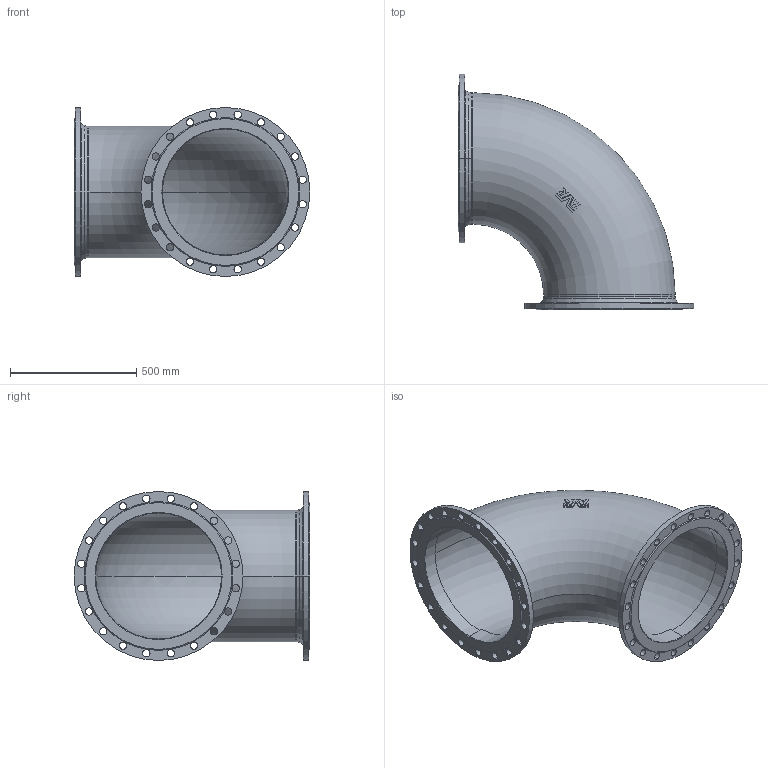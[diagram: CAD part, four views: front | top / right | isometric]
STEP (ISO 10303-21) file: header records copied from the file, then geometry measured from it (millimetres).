
FILE_DESCRIPTION (( 'STEP AP203' ), '1' );
FILE_NAME ('O_712_0610_DN500_0X_REV01.step', '2021-11-19T10:20:57', ( '' ), ( '' ), 'SwSTEP 2.0', 'SolidWorks 2019', '' );
FILE_SCHEMA (( 'CONFIG_CONTROL_DESIGN' ));
Length unit declared in the file: millimetre
Products named in the file (1): O_712_0610_DN500_0X_REV01
Bounding box: 935 x 935 x 670 mm (x, y, z)
Surface area: 5026284.5 mm2 (no closed solid volume)
Topology: 0 solids, 2 shells, 167 faces, 467 edges, 310 vertices
Faces by surface type: cylinder 92, plane 41, torus 18, cone 14, bspline 2
Entity records: 6273 total; most frequent: CARTESIAN_POINT 1689, DIRECTION 945, ORIENTED_EDGE 922, EDGE_CURVE 467, AXIS2_PLACEMENT_3D 402, VERTEX_POINT 310, EDGE_LOOP 257, CIRCLE 236
